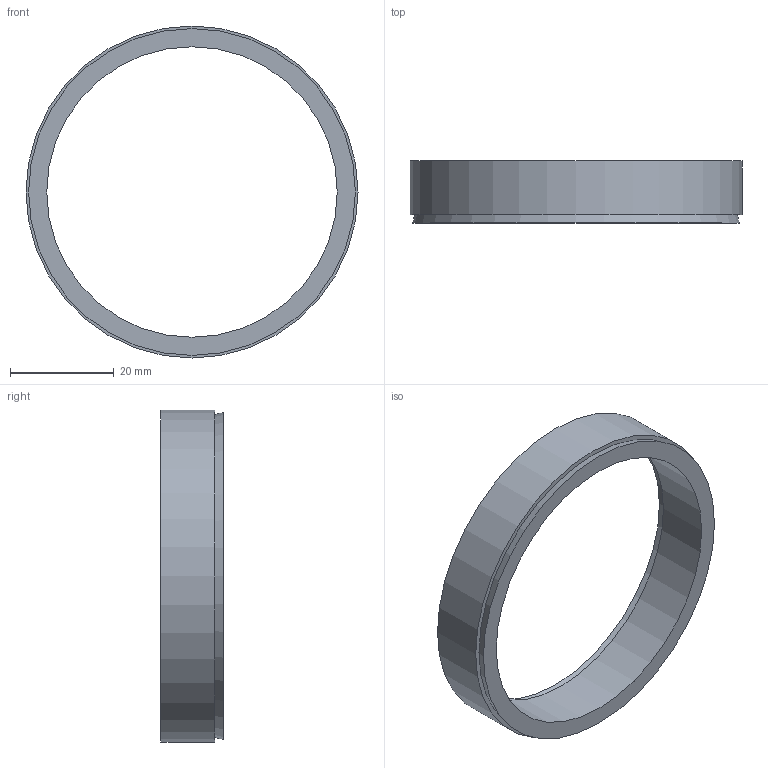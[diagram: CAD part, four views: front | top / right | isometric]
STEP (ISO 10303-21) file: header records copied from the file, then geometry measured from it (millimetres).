
FILE_DESCRIPTION( ( 'Unknown' ), '1' );
FILE_NAME( 'C:/Dokumente und Einstellungen/Sven/Desktop/homepage/cad - homepage/KBS50/KBS 50 - 56 x 64.stp', 'Unknown', ( 'Unknown' ), ( 'Unknown' ), 'XStep 1.0', 'Unknown', ' ' );
FILE_SCHEMA( ( 'automotive_design' ) );
Length unit declared in the file: millimetre
Products named in the file (1): 1
Bounding box: 64 x 12 x 64 mm (x, y, z)
Volume: 8625.6 mm3; surface area: 6201.2 mm2
Topology: 1 solids, 1 shells, 8 faces, 12 edges, 8 vertices
Faces by surface type: plane 4, cylinder 2, cone 2
Full cylindrical faces by diameter (mm): 56 x1, 64 x1
Entity records: 248 total; most frequent: DIRECTION 34, CARTESIAN_POINT 25, AXIS2_PLACEMENT_3D 17, EDGE_LOOP 16, ORIENTED_EDGE 16, FACE_OUTER_BOUND 10, STYLED_ITEM 8, PRESENTATION_STYLE_ASSIGNMENT 8
